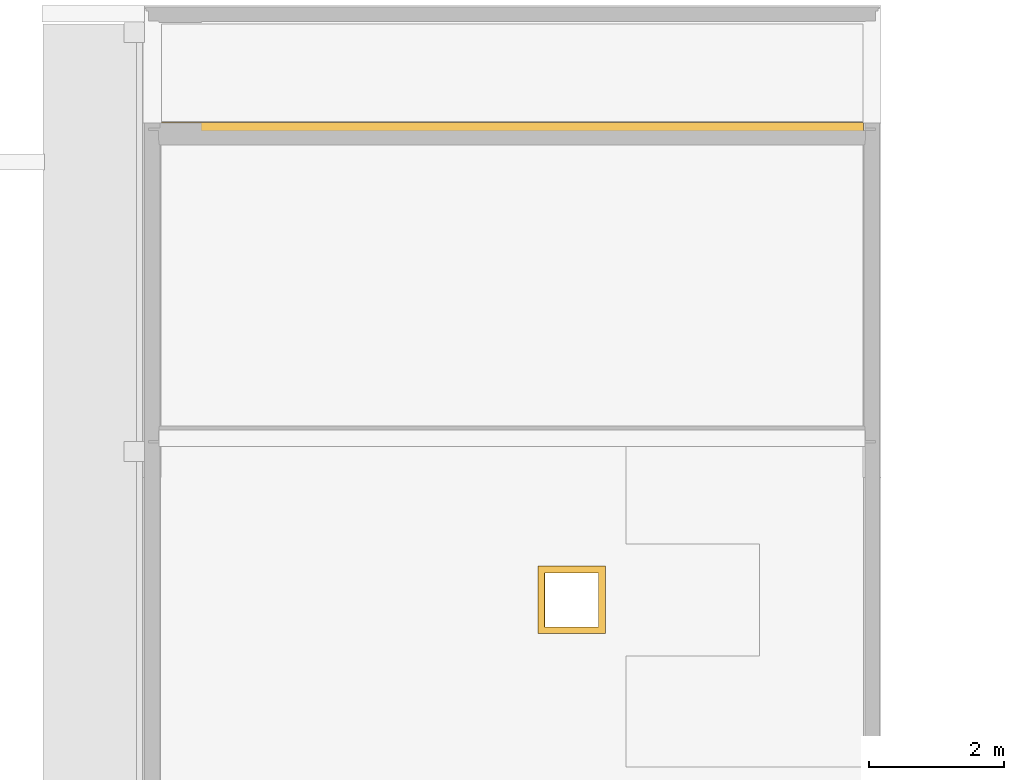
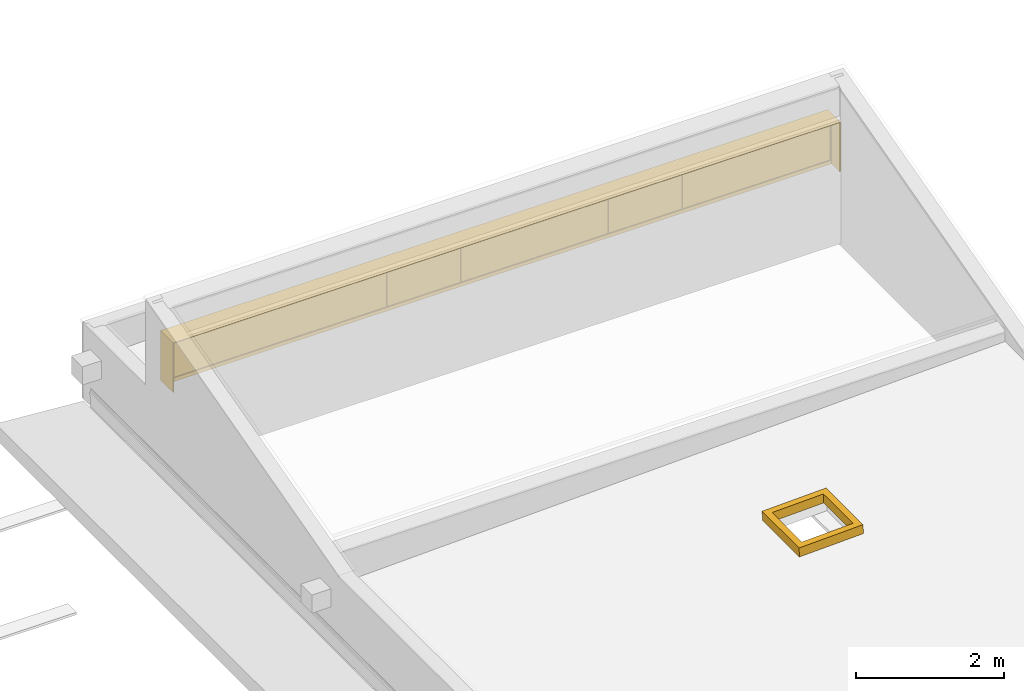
# One storey, part 7 of 8: 2 windows.
"""IFC2X3 building model written with IfcOpenShell, lengths in metres."""

import ifcopenshell
import ifcopenshell.guid

model = None  # the IFC model being written
_history = None  # IfcOwnerHistory: only IFC2X3 demands one
_inside = {}  # id of a spatial element -> (the spatial element, [elements in it])
_under = {}  # id of a project, library or spatial element -> (it, [spatial elements below it])
_declared = {}  # id of a project -> (the project, [libraries it declares])
_typed = {}  # id of a type object -> (the type object, [elements of that type])
_made_of = {}  # id of a material, layer set ... -> (it, [elements and type objects made of it])


def new_model(schema):
    """Start an empty IFC model of exactly this schema.

    Asked for "IFC4X3", IfcOpenShell would pick the latest addendum, in which some entities
    have other attributes; the version numbers below select the first issue.
    IFC2X3 requires an IfcOwnerHistory on every rooted entity: one is made here for all.
    """
    global model, _history
    if schema == "IFC4X3":
        model = ifcopenshell.file(schema_version=(4, 3, 0, 0))
    else:
        model = ifcopenshell.file(schema=schema)
    _inside.clear()
    _under.clear()
    _declared.clear()
    _typed.clear()
    _made_of.clear()
    _history = None
    if model.schema == "IFC2X3":
        org = make("IfcOrganization", Name="unknown")
        user = make(
            "IfcPersonAndOrganization",
            ThePerson=make("IfcPerson", FamilyName="unknown"),
            TheOrganization=org,
        )
        app = make(
            "IfcApplication",
            ApplicationDeveloper=org,
            Version="unknown",
            ApplicationFullName="unknown",
            ApplicationIdentifier="unknown",
        )
        _history = make(
            "IfcOwnerHistory",
            OwningUser=user,
            OwningApplication=app,
            ChangeAction="ADDED",
            CreationDate=0,
        )
    return model


def make(cls, **values):
    """One entity of the class cls with the attributes given. An attribute that is None is left unset."""
    return model.create_entity(
        cls, **{name: value for name, value in values.items() if value is not None}
    )


def entity(cls, *values):
    """Any entity or typed value of the class cls, its attributes in the order of the schema. None: left unset."""
    e = model.create_entity(cls)
    for i, value in enumerate(values):
        if value is not None:
            e[i] = value
    return e


def rooted(cls, **values):
    """An entity with a GlobalId (a new one), such as an element, a storey or a relation."""
    return make(cls, GlobalId=ifcopenshell.guid.new(), OwnerHistory=_history, **values)


def si_unit(unit_type, name, prefix=None):
    """IfcSIUnit, for example si_unit("LENGTHUNIT", "METRE", prefix="MILLI")."""
    return make("IfcSIUnit", UnitType=unit_type, Prefix=prefix, Name=name)


def converted_unit(unit_type, name, factor, base, dimensions=None, offset=None):
    """IfcConversionBasedUnit, such as the inch: factor (a typed value) times the base unit."""
    return make(
        "IfcConversionBasedUnit"
        if offset is None
        else "IfcConversionBasedUnitWithOffset",
        ConversionOffset=offset,
        Dimensions=None
        if dimensions is None
        else entity("IfcDimensionalExponents", *dimensions),
        UnitType=unit_type,
        Name=name,
        ConversionFactor=make(
            "IfcMeasureWithUnit", ValueComponent=factor, UnitComponent=base
        ),
    )


def derived_unit(unit_type, elements):
    """IfcDerivedUnit: a product of units, each with its exponent."""
    return make(
        "IfcDerivedUnit",
        Elements=[
            make("IfcDerivedUnitElement", Unit=unit, Exponent=power)
            for unit, power in elements
        ],
        UnitType=unit_type,
    )


def assignment(units):
    """IfcUnitAssignment: the units of a project."""
    return None if units is None else make("IfcUnitAssignment", Units=units)


def point(xyz):
    """IfcCartesianPoint."""
    return None if xyz is None else make("IfcCartesianPoint", Coordinates=xyz)


def direction(xyz):
    """IfcDirection."""
    return None if xyz is None else make("IfcDirection", DirectionRatios=xyz)


def frame(location, z_axis=None, x_axis=None):
    """IfcAxis2Placement3D, a coordinate frame: its origin and axes. An axis left out is left unset."""
    return make(
        "IfcAxis2Placement3D",
        Location=point(location),
        Axis=direction(z_axis),
        RefDirection=direction(x_axis),
    )


def origin():
    """The frame at (0, 0, 0) with its axes left unset."""
    return frame((0.0, 0.0, 0.0))


def place(relative_to, where):
    """IfcLocalPlacement: puts the frame where relative to a parent placement (None: the world)."""
    return make(
        "IfcLocalPlacement", PlacementRelTo=relative_to, RelativePlacement=where
    )


def context(
    kind, dimensions, precision=None, world=None, true_north=None, identifier=None
):
    """IfcGeometricRepresentationContext, for example the 3D "Model" context."""
    return make(
        "IfcGeometricRepresentationContext",
        ContextIdentifier=identifier,
        ContextType=kind,
        CoordinateSpaceDimension=dimensions,
        Precision=precision,
        WorldCoordinateSystem=world,
        TrueNorth=true_north,
    )


def subcontext(parent, identifier, kind, view, scale=None):
    """IfcGeometricRepresentationSubContext, for example "Body" below "Model"."""
    return make(
        "IfcGeometricRepresentationSubContext",
        ContextIdentifier=identifier,
        ContextType=kind,
        ParentContext=parent,
        TargetScale=scale,
        TargetView=view,
    )


def project(units=None, contexts=None):
    """IfcProject with its units and contexts."""
    return rooted(
        "IfcProject",
        Name="project",
        RepresentationContexts=contexts,
        UnitsInContext=assignment(units),
    )


def spatial(cls, under=None, at=None, **own):
    """A site, building, storey or space (cls), placed at a placement, below another one or the project."""
    s = rooted(cls, ObjectPlacement=at, **own)
    if under is not None:
        _under.setdefault(under.id(), (under, []))[1].append(s)
    return s


def faces_of(points, faces, orient=None, outer=None):
    """IfcFace entities. A face is a list of loops; a loop is a list of indices into points, from 0.

    orient and outer hold one flag for each loop. By default every Orientation is true, the
    first loop of a face is its IfcFaceOuterBound and the others are IfcFaceBound.
    """
    made = []
    for i, loops in enumerate(faces):
        bounds = []
        for j, loop in enumerate(loops):
            is_outer = j == 0 if outer is None else outer[i][j]
            bounds.append(
                make(
                    "IfcFaceOuterBound" if is_outer else "IfcFaceBound",
                    Bound=make("IfcPolyLoop", Polygon=[points[k] for k in loop]),
                    Orientation=True if orient is None else orient[i][j],
                )
            )
        made.append(make("IfcFace", Bounds=bounds))
    return made


def faceted_brep(points, faces, orient=None, outer=None, voids=None):
    """IfcFacetedBrep: a solid bounded by flat faces; with voids (closed shells), ...WithVoids."""
    shared = [point(p) for p in points]
    hull = make("IfcClosedShell", CfsFaces=faces_of(shared, faces, orient, outer))
    if voids is None:
        return make("IfcFacetedBrep", Outer=hull)
    return make(
        "IfcFacetedBrepWithVoids",
        Outer=hull,
        Voids=[
            make(cls, CfsFaces=faces_of(shared, fs, o, b)) for cls, fs, o, b in voids
        ],
    )


def shape(context_of_items, identifier, shape_type, items):
    """IfcShapeRepresentation: the items that make up one representation, for example the "Body"."""
    return make(
        "IfcShapeRepresentation",
        ContextOfItems=context_of_items,
        RepresentationIdentifier=identifier,
        RepresentationType=shape_type,
        Items=items,
    )


def source(mapping_origin, context_of_items, identifier, shape_type, items):
    """IfcRepresentationMap: a shape defined once, which mapped items show again and again."""
    return make(
        "IfcRepresentationMap",
        MappingOrigin=mapping_origin,
        MappedRepresentation=shape(context_of_items, identifier, shape_type, items),
    )


def transform(
    local_origin,
    x_axis=None,
    y_axis=None,
    z_axis=None,
    scale=None,
    scale2=None,
    scale3=None,
    uniform=True,
):
    """IfcCartesianTransformationOperator3D, or its non-uniform kind. x_axis, y_axis, z_axis: its Axis1, 2, 3."""
    if uniform:
        return make(
            "IfcCartesianTransformationOperator3D",
            Axis1=direction(x_axis),
            Axis2=direction(y_axis),
            LocalOrigin=point(local_origin),
            Scale=scale,
            Axis3=direction(z_axis),
        )
    return make(
        "IfcCartesianTransformationOperator3DnonUniform",
        Axis1=direction(x_axis),
        Axis2=direction(y_axis),
        LocalOrigin=point(local_origin),
        Scale=scale,
        Axis3=direction(z_axis),
        Scale2=scale2,
        Scale3=scale3,
    )


def mapped(mapping_source, mapping_target):
    """IfcMappedItem: shows the shape of a source again, moved by a transform."""
    return make(
        "IfcMappedItem", MappingSource=mapping_source, MappingTarget=mapping_target
    )


def material(Name=None, Category=None):
    """IfcMaterial."""
    return make("IfcMaterial", Name=Name, Category=Category)


def made_of(thing, what):
    """Note that an element or type object is made of a material, layer set ...; save() writes the relation."""
    if what is not None:
        _made_of.setdefault(what.id(), (what, []))[1].append(thing)
    return thing


def type_object(cls, material=None, **own):
    """A type object (cls), such as IfcWallType, which elements share."""
    return made_of(rooted(cls, **own), material)


def type_shapes(of_type, sources):
    """Give a type object the sources (RepresentationMaps) that its elements show as mapped items."""
    of_type.RepresentationMaps = sources


def element(
    cls,
    number,
    at=None,
    inside=None,
    cuts=None,
    type_object=None,
    material=None,
    context=None,
    identifier="Body",
    shape_type=None,
    held_by="IfcProductDefinitionShape",
    body=None,
    shapes=None,
    **own,
):
    """One element of the class cls, such as IfcWall. Its Tag is "e" and its number.

    at: its placement. inside: the storey or other place that contains it. cuts: it is an
    opening in that element (IfcRelVoidsElement). A single representation is given by context,
    identifier, shape_type and body (its items); several are given by shapes. held_by: the class
    of the entity that holds the representations. save() writes the other relations.
    """
    e = rooted(cls, Tag="e%d" % number, ObjectPlacement=at, **own)
    if body is not None:
        shapes = [shape(context, identifier, shape_type, body)]
    if shapes is not None:
        e.Representation = make(held_by, Representations=shapes)
    if inside is not None:
        _inside.setdefault(inside.id(), (inside, []))[1].append(e)
    if cuts is not None:
        rooted(
            "IfcRelVoidsElement", RelatingBuildingElement=cuts, RelatedOpeningElement=e
        )
    if type_object is not None:
        _typed.setdefault(type_object.id(), (type_object, []))[1].append(e)
    return made_of(e, material)


def aggregate(whole, parts):
    """IfcRelAggregates: a whole, such as a stair, and the parts it consists of."""
    return rooted("IfcRelAggregates", RelatingObject=whole, RelatedObjects=parts)


def save(model, path):
    """Write the relations noted so far, then the file.

    IfcRelAggregates (storeys below a building ...), IfcRelContainedInSpatialStructure (elements
    in a storey), IfcRelDefinesByType, IfcRelAssociatesMaterial and IfcRelDeclares: one each for
    every whole, place, type object, material and project.
    """
    for whole, parts in _under.values():
        aggregate(whole, parts)
    for where, things in _inside.values():
        rooted(
            "IfcRelContainedInSpatialStructure",
            RelatedElements=things,
            RelatingStructure=where,
        )
    for kind, things in _typed.values():
        rooted("IfcRelDefinesByType", RelatedObjects=things, RelatingType=kind)
    for what, things in _made_of.values():
        rooted("IfcRelAssociatesMaterial", RelatedObjects=things, RelatingMaterial=what)
    for by, libraries in _declared.values():
        rooted("IfcRelDeclares", RelatingContext=by, RelatedDefinitions=libraries)
    model.write(path)


model = new_model("IFC2X3")

# Units and contexts
model_context = context("Model", 3, precision=1e-05, world=origin(), true_north=direction((6.123031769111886e-17, 1.0)))
body_context = subcontext(model_context, "Body", "Model", "MODEL_VIEW")
ifc_project = project(units=[si_unit("LENGTHUNIT", "METRE"), si_unit("AREAUNIT", "SQUARE_METRE"), si_unit("VOLUMEUNIT", "CUBIC_METRE"), converted_unit("PLANEANGLEUNIT", "DEGREE", entity("IfcRatioMeasure", 0.017453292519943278), si_unit("PLANEANGLEUNIT", "RADIAN"), dimensions=[0, 0, 0, 0, 0, 0, 0]), si_unit("MASSUNIT", "GRAM", prefix="KILO"), derived_unit("MASSDENSITYUNIT", [(si_unit("MASSUNIT", "GRAM", prefix="KILO"), 1), (si_unit("LENGTHUNIT", "METRE"), -3)]), derived_unit("MOMENTOFINERTIAUNIT", [(si_unit("LENGTHUNIT", "METRE"), 4)]), si_unit("TIMEUNIT", "SECOND"), si_unit("FREQUENCYUNIT", "HERTZ"), si_unit("THERMODYNAMICTEMPERATUREUNIT", "DEGREE_CELSIUS"), derived_unit("THERMALTRANSMITTANCEUNIT", [(si_unit("MASSUNIT", "GRAM", prefix="KILO"), 1), (si_unit("THERMODYNAMICTEMPERATUREUNIT", "KELVIN"), -1), (si_unit("TIMEUNIT", "SECOND"), -3)]), derived_unit("THERMALCONDUCTANCEUNIT", [(si_unit("MASSUNIT", "GRAM", prefix="KILO"), 1), (si_unit("LENGTHUNIT", "METRE"), 1), (si_unit("THERMODYNAMICTEMPERATUREUNIT", "KELVIN"), -1), (si_unit("TIMEUNIT", "SECOND"), -3)]), derived_unit("VOLUMETRICFLOWRATEUNIT", [(si_unit("LENGTHUNIT", "METRE"), 3), (si_unit("TIMEUNIT", "SECOND"), -1)]), derived_unit("MASSFLOWRATEUNIT", [(si_unit("MASSUNIT", "GRAM", prefix="KILO"), 1), (si_unit("TIMEUNIT", "SECOND"), -1)]), derived_unit("ROTATIONALFREQUENCYUNIT", [(si_unit("TIMEUNIT", "SECOND"), -1)]), si_unit("ELECTRICCURRENTUNIT", "AMPERE"), si_unit("ELECTRICVOLTAGEUNIT", "VOLT"), si_unit("POWERUNIT", "WATT"), si_unit("FORCEUNIT", "NEWTON", prefix="KILO"), si_unit("ILLUMINANCEUNIT", "LUX"), si_unit("LUMINOUSFLUXUNIT", "LUMEN"), si_unit("LUMINOUSINTENSITYUNIT", "CANDELA"), derived_unit("USERDEFINED", [(si_unit("MASSUNIT", "GRAM", prefix="KILO"), -1), (si_unit("LENGTHUNIT", "METRE"), -2), (si_unit("TIMEUNIT", "SECOND"), 3), (si_unit("LUMINOUSFLUXUNIT", "LUMEN"), 1)]), derived_unit("USERDEFINED", [(si_unit("MASSUNIT", "GRAM", prefix="KILO"), 1), (si_unit("LENGTHUNIT", "METRE"), 3), (si_unit("TIMEUNIT", "SECOND"), -3), (si_unit("ELECTRICCURRENTUNIT", "AMPERE"), -2)]), derived_unit("USERDEFINED", [(si_unit("LENGTHUNIT", "METRE"), 2), (si_unit("TIMEUNIT", "SECOND"), -2)]), derived_unit("SOUNDPOWERUNIT", [(si_unit("MASSUNIT", "GRAM", prefix="KILO"), 1), (si_unit("LENGTHUNIT", "METRE"), 2), (si_unit("TIMEUNIT", "SECOND"), -3)]), derived_unit("SOUNDPRESSUREUNIT", [(si_unit("MASSUNIT", "GRAM", prefix="KILO"), 1), (si_unit("LENGTHUNIT", "METRE"), -1), (si_unit("TIMEUNIT", "SECOND"), -2)]), derived_unit("LINEARVELOCITYUNIT", [(si_unit("LENGTHUNIT", "METRE"), 1), (si_unit("TIMEUNIT", "SECOND"), -1)]), si_unit("PRESSUREUNIT", "PASCAL"), derived_unit("USERDEFINED", [(si_unit("LENGTHUNIT", "METRE"), -2), (si_unit("MASSUNIT", "GRAM", prefix="KILO"), 1), (si_unit("TIMEUNIT", "SECOND"), -2)]), derived_unit("LINEARFORCEUNIT", [(si_unit("MASSUNIT", "GRAM", prefix="KILO"), 1), (si_unit("LENGTHUNIT", "METRE"), 1), (si_unit("TIMEUNIT", "SECOND"), -2), (si_unit("LENGTHUNIT", "METRE"), -1)]), derived_unit("PLANARFORCEUNIT", [(si_unit("MASSUNIT", "GRAM", prefix="KILO"), 1), (si_unit("LENGTHUNIT", "METRE"), 1), (si_unit("TIMEUNIT", "SECOND"), -2), (si_unit("LENGTHUNIT", "METRE"), -2)]), derived_unit("SPECIFICHEATCAPACITYUNIT", [(si_unit("LENGTHUNIT", "METRE"), 2), (si_unit("TIMEUNIT", "SECOND"), -2), (si_unit("THERMODYNAMICTEMPERATUREUNIT", "KELVIN"), -1)]), derived_unit("VAPORPERMEABILITYUNIT", [(si_unit("TIMEUNIT", "SECOND"), 1), (si_unit("LENGTHUNIT", "METRE"), -1)]), derived_unit("DYNAMICVISCOSITYUNIT", [(si_unit("MASSUNIT", "GRAM", prefix="KILO"), 1), (si_unit("LENGTHUNIT", "METRE"), -1), (si_unit("TIMEUNIT", "SECOND"), -1)]), derived_unit("THERMALEXPANSIONCOEFFICIENTUNIT", [(si_unit("THERMODYNAMICTEMPERATUREUNIT", "KELVIN"), -1)])], contexts=[model_context])

# Site, building, storey
site_placement = place(None, origin())
site = spatial("IfcSite", under=ifc_project, at=site_placement, Name="Default", CompositionType="ELEMENT")
building_placement = place(site_placement, origin())
building = spatial("IfcBuilding", under=site, at=building_placement, CompositionType="ELEMENT")
storey_placement = place(building_placement, frame((0.0, 0.0, 6.059999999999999)))
storey = spatial("IfcBuildingStorey", under=building, at=storey_placement, Name="TOITURE", CompositionType="ELEMENT", Elevation=6.059999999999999)

# Windows
ifc_material_1 = material(Name="Métal - Acier inoxydable")
window_style_1 = type_object("IfcWindowStyle", Name="Luc-001", ConstructionType="NOTDEFINED", OperationType="NOTDEFINED", ParameterTakesPrecedence=False, Sizeable=False, material=ifc_material_1)
shared_shape_1 = source(origin(), body_context, "Body", "Brep", [
    faceted_brep([(147.24075224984, 17.94720948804, 7.72687583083), (147.24075224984, 16.947209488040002, 7.72687583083), (147.23550546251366, 16.947209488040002, 7.8767840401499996), (147.23550546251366, 17.94720948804, 7.8767840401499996), (148.240140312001, 17.94720948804, 7.761854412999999), (148.240140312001, 16.947209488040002, 7.761854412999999), (147.3406910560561, 17.84720948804, 7.730373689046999), (147.3406910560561, 17.04720948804, 7.730373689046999), (148.14020150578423, 17.04720948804, 7.758356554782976), (148.14020150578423, 17.84720948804, 7.758356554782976), (148.234893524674, 16.947209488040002, 7.91176262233), (148.234893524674, 17.94720948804, 7.91176262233), (147.33544426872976, 17.84720948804, 7.880281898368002), (148.13495471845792, 17.84720948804, 7.9082647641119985), (148.13495471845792, 17.04720948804, 7.9082647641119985), (147.33544426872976, 17.04720948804, 7.880281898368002)], [[[0, 1, 2, 3]], [[0, 4, 5, 1], [6, 7, 8, 9]], [[1, 5, 10, 2]], [[3, 2, 10, 11], [12, 13, 14, 15]], [[4, 0, 3, 11]], [[5, 4, 11, 10]], [[7, 6, 12, 15]], [[8, 7, 15, 14]], [[9, 8, 14, 13]], [[6, 9, 13, 12]], [[12, 15, 14, 13]]]),
])
type_shapes(window_style_1, [shared_shape_1])
window_1_placement = place(storey_placement, frame((0.0, 0.0, -6.059999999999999)))
element("IfcWindow", 1, at=window_1_placement, inside=storey, type_object=window_style_1, material=ifc_material_1, Name="Luc-001 804245 804245:Luc-001 804245 804245", ObjectType="Luc-001 804245 804245:Luc-001 804245 804245", OverallHeight=0.18488679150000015, OverallWidth=1.0046348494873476, context=body_context, shape_type="MappedRepresentation", body=[
    mapped(shared_shape_1, transform((0.0, 0.0, 0.0), scale=1.0)),
])
ifc_material_2 = material(Name="Transp. - Plexiglass")
window_style_2 = type_object("IfcWindowStyle", Name="Fen-003", ConstructionType="NOTDEFINED", OperationType="SINGLE_PANEL", ParameterTakesPrecedence=False, Sizeable=False, material=ifc_material_2)
shared_shape_2 = source(origin(), body_context, "Body", "Brep", [
    faceted_brep([(152.06075227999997, 24.4072094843, 8.83), (152.06075227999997, 24.4072094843, 8.819999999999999), (141.64075228, 24.4072094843, 8.819999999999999), (141.64075228, 24.4072094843, 8.83), (152.06075227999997, 24.1872094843, 8.83), (152.06075227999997, 24.1872094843, 8.819999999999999), (141.64075228, 24.1872094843, 8.819999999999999), (141.64075228, 24.1872094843, 8.83), (141.65075228, 24.1872094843, 8.819999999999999), (141.65075228, 24.1872094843, 8.01), (141.65075228, 24.4072094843, 8.01), (141.65075228, 24.4072094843, 8.819999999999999), (141.64075228, 24.187209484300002, 8.01), (141.64075228, 24.4072094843, 8.01), (152.06075227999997, 24.1872094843, 8.01), (152.06075227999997, 24.4072094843, 8.01), (152.05075228, 24.187209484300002, 8.819999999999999), (152.05075228, 24.187209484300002, 8.01), (152.05075228, 24.4072094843, 8.01), (152.05075228, 24.4072094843, 8.819999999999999), (141.64075228, 24.4472094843, 8.01), (152.06075227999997, 24.4472094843, 8.01), (152.03075228, 24.4072094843, 8.07), (141.67075228, 24.4072094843, 8.07), (141.67075228, 24.4072094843, 8.799999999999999), (152.03075228, 24.4072094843, 8.799999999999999), (141.64075228, 24.4472094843, 8.83), (152.06075227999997, 24.4472094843, 8.83), (141.67075228, 24.4472094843, 8.799999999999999), (141.67075228, 24.4472094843, 8.07), (152.03075228, 24.4472094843, 8.07), (152.03075228, 24.4472094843, 8.799999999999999), (152.03075228, 24.4222094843, 8.0701), (141.67075228, 24.4222094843, 8.0701), (141.67075228, 24.4322094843, 8.0701), (152.03075228, 24.4322094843, 8.0701), (141.67075228, 24.4222094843, 8.799999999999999), (152.03075228, 24.4222094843, 8.799999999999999), (141.67075228, 24.4322094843, 8.799999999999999), (152.03075228, 24.432209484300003, 8.799999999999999), (150.89741894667, 24.432209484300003, 8.069999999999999), (150.89741894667, 24.432209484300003, 8.799999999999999), (150.87741894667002, 24.432209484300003, 8.799999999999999), (150.87741894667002, 24.432209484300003, 8.069999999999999), (150.89741894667, 24.4397094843, 8.069999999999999), (150.89741894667, 24.4397094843, 8.799999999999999), (150.87741894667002, 24.4397094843, 8.799999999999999), (150.87741894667, 24.4397094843, 8.069999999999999), (141.64075228, 24.4472094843, 8.819999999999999), (152.06075227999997, 24.4472094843, 8.819999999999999), (141.64075228, 24.5272094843, 8.83), (141.64075228, 24.5272094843, 8.819999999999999), (152.06075227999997, 24.5272094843, 8.819999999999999), (152.06075227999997, 24.5272094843, 8.83), (141.65075228, 24.4472094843, 8.819999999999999), (141.65075228, 24.4472094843, 8.02), (141.65075228, 24.5272094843, 8.02), (141.65075228, 24.5272094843, 8.819999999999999), (141.64075228, 24.4472094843, 8.02), (141.64075228, 24.5272094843, 8.02), (152.06075227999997, 24.4472094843, 8.02), (152.06075227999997, 24.5272094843, 8.02), (152.05075228, 24.4472094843, 8.819999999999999), (152.05075228, 24.4472094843, 8.02), (152.05075228, 24.5272094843, 8.02), (152.05075228, 24.527209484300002, 8.819999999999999), (141.64075228, 24.5272094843, 8.01), (152.06075227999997, 24.5272094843, 8.01), (142.82408561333, 24.4222094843, 8.069999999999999), (142.80408561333, 24.4222094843, 8.069999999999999), (142.80408561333, 24.4222094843, 8.799999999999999), (142.82408561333, 24.4222094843, 8.799999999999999), (142.82408561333, 24.4147094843, 8.07), (142.80408561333, 24.4147094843, 8.07), (142.80408561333, 24.4147094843, 8.799999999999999), (142.82408561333, 24.4147094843, 8.799999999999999), (142.82408561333, 24.432209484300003, 8.069999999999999), (142.82408561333, 24.432209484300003, 8.799999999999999), (142.80408561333, 24.432209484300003, 8.799999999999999), (142.80408561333, 24.432209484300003, 8.069999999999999), (142.82408561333, 24.4397094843, 8.069999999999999), (142.82408561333, 24.4397094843, 8.799999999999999), (142.80408561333, 24.4397094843, 8.799999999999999), (142.80408561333, 24.4397094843, 8.069999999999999), (143.97741894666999, 24.4222094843, 8.069999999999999), (143.95741894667, 24.4222094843, 8.069999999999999), (143.95741894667, 24.4222094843, 8.799999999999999), (143.97741894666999, 24.4222094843, 8.799999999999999), (143.97741894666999, 24.4147094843, 8.07), (143.95741894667, 24.4147094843, 8.07), (143.95741894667, 24.4147094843, 8.799999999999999), (143.97741894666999, 24.4147094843, 8.799999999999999), (143.97741894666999, 24.432209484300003, 8.069999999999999), (143.97741894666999, 24.432209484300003, 8.799999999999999), (143.95741894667, 24.432209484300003, 8.799999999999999), (143.95741894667, 24.432209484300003, 8.069999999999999), (143.97741894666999, 24.4397094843, 8.069999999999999), (143.97741894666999, 24.4397094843, 8.799999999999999), (143.95741894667, 24.4397094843, 8.799999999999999), (143.95741894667, 24.4397094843, 8.069999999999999), (145.13075228, 24.4222094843, 8.069999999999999), (145.11075228, 24.4222094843, 8.069999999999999), (145.11075228, 24.4222094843, 8.799999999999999), (145.13075228, 24.4222094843, 8.799999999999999), (145.13075228, 24.4147094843, 8.07), (145.11075228, 24.4147094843, 8.07), (145.11075227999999, 24.4147094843, 8.799999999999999), (145.13075228, 24.4147094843, 8.799999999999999), (145.13075228, 24.432209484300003, 8.069999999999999), (145.13075228, 24.432209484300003, 8.799999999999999), (145.11075228, 24.432209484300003, 8.799999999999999), (145.11075228, 24.432209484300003, 8.069999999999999), (145.13075228, 24.4397094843, 8.069999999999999), (145.13075228, 24.4397094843, 8.799999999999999), (145.11075228, 24.4397094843, 8.799999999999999), (145.11075227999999, 24.4397094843, 8.069999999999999), (146.28408561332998, 24.4222094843, 8.069999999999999), (146.26408561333, 24.4222094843, 8.069999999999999), (146.26408561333, 24.4222094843, 8.799999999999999), (146.28408561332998, 24.4222094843, 8.799999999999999), (146.28408561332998, 24.4147094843, 8.07), (146.26408561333, 24.4147094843, 8.07), (146.26408561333, 24.4147094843, 8.799999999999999), (146.28408561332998, 24.4147094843, 8.799999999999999), (146.28408561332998, 24.432209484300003, 8.069999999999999), (146.28408561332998, 24.432209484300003, 8.799999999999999), (146.26408561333, 24.432209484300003, 8.799999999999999), (146.26408561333, 24.432209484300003, 8.069999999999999), (146.28408561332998, 24.4397094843, 8.069999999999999), (146.28408561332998, 24.4397094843, 8.799999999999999), (146.26408561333, 24.4397094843, 8.799999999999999), (146.26408561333, 24.4397094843, 8.069999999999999), (147.43741894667, 24.4222094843, 8.069999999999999), (147.41741894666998, 24.4222094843, 8.069999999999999), (147.41741894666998, 24.4222094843, 8.799999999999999), (147.43741894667, 24.4222094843, 8.799999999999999), (147.43741894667, 24.4147094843, 8.07), (147.41741894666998, 24.4147094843, 8.07), (147.41741894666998, 24.4147094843, 8.799999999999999), (147.43741894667, 24.4147094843, 8.799999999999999), (147.43741894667, 24.432209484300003, 8.069999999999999), (147.43741894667, 24.432209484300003, 8.799999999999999), (147.41741894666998, 24.432209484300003, 8.799999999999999), (147.41741894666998, 24.432209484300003, 8.069999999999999), (147.43741894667, 24.4397094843, 8.069999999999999), (147.43741894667, 24.4397094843, 8.799999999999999), (147.41741894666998, 24.4397094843, 8.799999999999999), (147.41741894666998, 24.4397094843, 8.069999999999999), (148.59075228, 24.4222094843, 8.069999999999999), (148.57075228, 24.4222094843, 8.069999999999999), (148.57075228, 24.4222094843, 8.799999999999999), (148.59075228, 24.4222094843, 8.799999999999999), (148.59075228, 24.4147094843, 8.07), (148.57075228, 24.4147094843, 8.07), (148.57075228, 24.4147094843, 8.799999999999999), (148.59075228, 24.4147094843, 8.799999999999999), (148.59075228, 24.432209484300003, 8.069999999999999), (148.59075228, 24.432209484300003, 8.799999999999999), (148.57075228, 24.432209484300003, 8.799999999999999), (148.57075228, 24.432209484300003, 8.069999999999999), (148.59075228, 24.4397094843, 8.069999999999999), (148.59075228, 24.4397094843, 8.799999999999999), (148.57075228, 24.4397094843, 8.799999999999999), (148.57075228, 24.4397094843, 8.069999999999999), (149.74408561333, 24.4222094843, 8.069999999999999), (149.72408561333, 24.4222094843, 8.069999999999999), (149.72408561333, 24.4222094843, 8.799999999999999), (149.74408561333, 24.4222094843, 8.799999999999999), (149.74408561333, 24.4147094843, 8.07), (149.72408561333, 24.4147094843, 8.07), (149.72408561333, 24.4147094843, 8.799999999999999), (149.74408561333, 24.4147094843, 8.799999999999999), (149.74408561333, 24.432209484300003, 8.069999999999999), (149.74408561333, 24.432209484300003, 8.799999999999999), (149.72408561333, 24.432209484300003, 8.799999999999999), (149.72408561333, 24.432209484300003, 8.069999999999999), (149.74408561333, 24.4397094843, 8.069999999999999), (149.74408561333, 24.4397094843, 8.799999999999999), (149.72408561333, 24.4397094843, 8.799999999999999), (149.72408561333, 24.4397094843, 8.069999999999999), (150.89741894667, 24.4222094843, 8.069999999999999), (150.87741894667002, 24.4222094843, 8.069999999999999), (150.87741894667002, 24.4222094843, 8.799999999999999), (150.89741894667, 24.4222094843, 8.799999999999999), (150.89741894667, 24.4147094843, 8.07), (150.87741894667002, 24.4147094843, 8.07), (150.87741894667, 24.4147094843, 8.799999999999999), (150.89741894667, 24.4147094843, 8.799999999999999)], [[[0, 1, 2, 3]], [[4, 5, 1, 0]], [[5, 6, 2, 1]], [[3, 2, 6, 7]], [[4, 0, 3, 7]], [[7, 6, 5, 4]], [[8, 9, 10, 11]], [[6, 12, 9, 8]], [[12, 13, 10, 9]], [[11, 10, 13, 2]], [[6, 8, 11, 2]], [[2, 13, 12, 6]], [[5, 14, 15, 1]], [[16, 17, 14, 5]], [[17, 18, 15, 14]], [[1, 15, 18, 19]], [[16, 5, 1, 19]], [[19, 18, 17, 16]], [[15, 13, 20, 21]], [[3, 13, 15, 0], [22, 23, 24, 25]], [[13, 3, 26, 20]], [[21, 20, 26, 27], [28, 29, 30, 31]], [[0, 15, 21, 27]], [[3, 0, 27, 26]], [[23, 22, 30, 29]], [[24, 23, 29, 28]], [[25, 24, 28, 31]], [[22, 25, 31, 30]], [[32, 33, 34, 35]], [[36, 33, 32, 37]], [[33, 36, 38, 34]], [[35, 34, 38, 39]], [[37, 32, 35, 39]], [[36, 37, 39, 38]], [[40, 41, 42, 43]], [[40, 44, 45, 41]], [[41, 45, 46, 42]], [[42, 46, 47, 43]], [[43, 47, 44, 40]], [[47, 46, 45, 44]], [[26, 48, 49, 27]], [[50, 51, 48, 26]], [[49, 48, 51, 52]], [[27, 49, 52, 53]], [[50, 26, 27, 53]], [[53, 52, 51, 50]], [[51, 50, 53, 52]], [[54, 55, 56, 57]], [[48, 58, 55, 54]], [[56, 55, 58, 59]], [[57, 56, 59, 51]], [[48, 54, 57, 51]], [[51, 59, 58, 48]], [[49, 60, 61, 52]], [[62, 63, 60, 49]], [[61, 60, 63, 64]], [[52, 61, 64, 65]], [[62, 49, 52, 65]], [[65, 64, 63, 62]], [[58, 20, 21, 60]], [[59, 66, 20, 58]], [[21, 20, 66, 67]], [[60, 21, 67, 61]], [[59, 58, 60, 61]], [[61, 67, 66, 59]], [[66, 59, 61, 67]], [[68, 69, 70, 71]], [[69, 68, 72, 73]], [[70, 69, 73, 74]], [[71, 70, 74, 75]], [[68, 71, 75, 72]], [[73, 72, 75, 74]], [[76, 77, 78, 79]], [[76, 80, 81, 77]], [[77, 81, 82, 78]], [[78, 82, 83, 79]], [[79, 83, 80, 76]], [[83, 82, 81, 80]], [[84, 85, 86, 87]], [[85, 84, 88, 89]], [[86, 85, 89, 90]], [[87, 86, 90, 91]], [[84, 87, 91, 88]], [[89, 88, 91, 90]], [[92, 93, 94, 95]], [[92, 96, 97, 93]], [[93, 97, 98, 94]], [[94, 98, 99, 95]], [[95, 99, 96, 92]], [[99, 98, 97, 96]], [[100, 101, 102, 103]], [[101, 100, 104, 105]], [[102, 101, 105, 106]], [[103, 102, 106, 107]], [[100, 103, 107, 104]], [[105, 104, 107, 106]], [[108, 109, 110, 111]], [[108, 112, 113, 109]], [[109, 113, 114, 110]], [[110, 114, 115, 111]], [[111, 115, 112, 108]], [[115, 114, 113, 112]], [[116, 117, 118, 119]], [[117, 116, 120, 121]], [[118, 117, 121, 122]], [[119, 118, 122, 123]], [[116, 119, 123, 120]], [[121, 120, 123, 122]], [[124, 125, 126, 127]], [[124, 128, 129, 125]], [[125, 129, 130, 126]], [[126, 130, 131, 127]], [[127, 131, 128, 124]], [[131, 130, 129, 128]], [[132, 133, 134, 135]], [[133, 132, 136, 137]], [[134, 133, 137, 138]], [[135, 134, 138, 139]], [[132, 135, 139, 136]], [[137, 136, 139, 138]], [[140, 141, 142, 143]], [[140, 144, 145, 141]], [[141, 145, 146, 142]], [[142, 146, 147, 143]], [[143, 147, 144, 140]], [[147, 146, 145, 144]], [[148, 149, 150, 151]], [[149, 148, 152, 153]], [[150, 149, 153, 154]], [[151, 150, 154, 155]], [[148, 151, 155, 152]], [[153, 152, 155, 154]], [[156, 157, 158, 159]], [[156, 160, 161, 157]], [[157, 161, 162, 158]], [[158, 162, 163, 159]], [[159, 163, 160, 156]], [[163, 162, 161, 160]], [[164, 165, 166, 167]], [[165, 164, 168, 169]], [[166, 165, 169, 170]], [[167, 166, 170, 171]], [[164, 167, 171, 168]], [[169, 168, 171, 170]], [[172, 173, 174, 175]], [[172, 176, 177, 173]], [[173, 177, 178, 174]], [[174, 178, 179, 175]], [[175, 179, 176, 172]], [[179, 178, 177, 176]], [[180, 181, 182, 183]], [[181, 180, 184, 185]], [[182, 181, 185, 186]], [[183, 182, 186, 187]], [[180, 183, 187, 184]], [[185, 184, 187, 186]], [[48, 26, 27, 49]], [[20, 58, 60, 21]]]),
])
type_shapes(window_style_2, [shared_shape_2])
window_2_placement = place(storey_placement, frame((0.0, 0.0, -6.059999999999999)))
element("IfcWindow", 2, at=window_2_placement, inside=storey, type_object=window_style_2, material=ifc_material_2, Name="Fen-003 838242 838242:Fen-003 838242 838242", ObjectType="Fen-003 838242 838242:Fen-003 838242 838242", OverallHeight=0.8199999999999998, OverallWidth=10.419999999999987, context=body_context, shape_type="MappedRepresentation", body=[
    mapped(shared_shape_2, transform((0.0, 0.0, 0.0), scale=1.0)),
])

save(model, "model.ifc")
